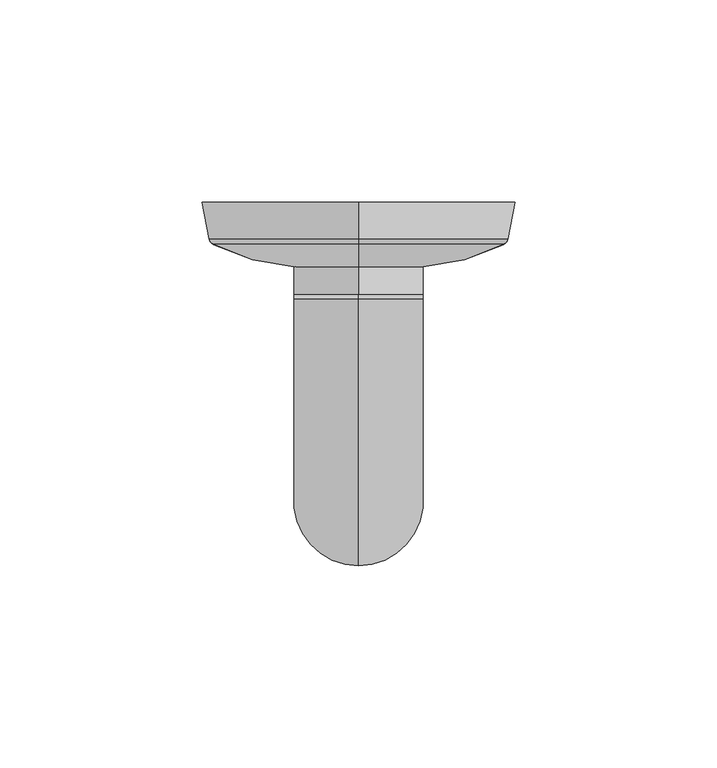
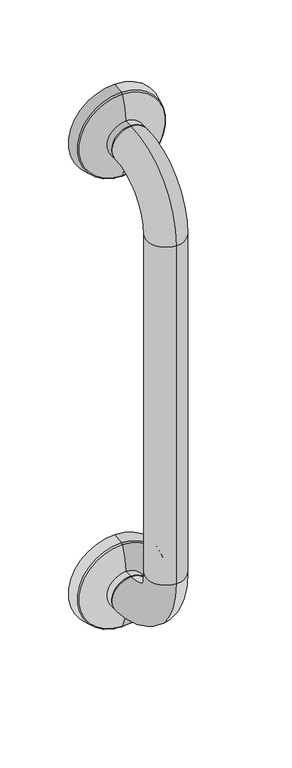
"""IFC4 building model written with IfcOpenShell, lengths in millimetres: proxy geometry, Grab Rail_Metlam_Straight_Vertical : 432long x 90d x 32w (ML329SS)."""

from ifc_helpers import new_model, si_unit, point, frame, origin, place, context, project, spatial, polyline, circle_curve, ellipse_curve, trimmed, source, transform, mapped, element, save
from ifc_brep_helpers import plane_surface, cylinder_surface, revolved_surface, advanced_brep


def specialty_equipment_ed02a0b0(model_context):
    return source(origin(), model_context, "Body", "AdvancedBrep", [
        advanced_brep(
        [(0.0, -90.0, 834.0), (0.0, -24.0, 768.0), (0.0, -24.0, 800.0), (0.0, -58.0, 834.0), (0.0, -58.0, 1134.0), (0.0, -90.0, 1134.0), (0.0, -24.0, 1168.0), (0.0, -24.0, 1200.0), (0.0, -23.0, 768.0), (0.0, -23.0, 800.0), (0.0, -23.0, 1168.0), (0.0, -23.0, 1200.0), (0.0, 0.0, 1184.0), (0.0, 0.0, 1145.0), (0.0, 0.0, 1223.0), (0.0, -9.0646354, 1146.8129271), (0.0, -9.0646354, 1221.1870729), (0.0, -10.4521085, 1220.1384075), (0.0, -10.4521085, 1147.8615925), (0.0, -16.0065539, 1168.0), (0.0, -16.0065539, 1200.0), (0.0, -9.0646354, 746.8129271), (0.0, -9.0646354, 821.1870729), (0.0, 0.0, 823.0), (0.0, 0.0, 745.0), (0.0, -16.0065539, 768.0), (0.0, -16.0065539, 800.0), (0.0, -10.4521085, 820.1384075), (0.0, -10.4521085, 747.8615925), (0.0, 0.0, 784.0)],
        [
            (0, 1, circle_curve(frame((0.0, -24.0, 834.0), z_axis=(1.0, 0.0, 0.0), x_axis=(0.0, 0.0, -1.0)), 66.0)),
            (1, 2, circle_curve(frame((0.0, -24.0, 784.0), z_axis=(0.0, -1.0, 0.0), x_axis=(0.0, 0.0, -1.0)), 16.0)),
            (2, 3, circle_curve(frame((0.0, -24.0, 834.0), z_axis=(-1.0, 0.0, 0.0), x_axis=(0.0, 0.0, -1.0)), 34.0)),
            (3, 0, circle_curve(frame((0.0, -74.0, 834.0), z_axis=(0.0, 0.0, -1.0), x_axis=(0.0, -1.0, 0.0)), 16.0)),
            (0, 3, circle_curve(frame((0.0, -74.0, 834.0), z_axis=(0.0, 0.0, -1.0), x_axis=(0.0, -1.0, 0.0)), 16.0)),
            (2, 1, circle_curve(frame((0.0, -24.0, 784.0), z_axis=(0.0, -1.0, 0.0), x_axis=(0.0, 0.0, -1.0)), 16.0)),
            (3, 4),
            (4, 5, circle_curve(frame((0.0, -74.0, 1134.0), z_axis=(0.0, 0.0, -1.0), x_axis=(0.0, -1.0, 0.0)), 16.0)),
            (5, 0),
            (5, 4, circle_curve(frame((0.0, -74.0, 1134.0), z_axis=(0.0, 0.0, -1.0), x_axis=(0.0, -1.0, 0.0)), 16.0)),
            (4, 6, circle_curve(frame((0.0, -24.0, 1134.0), z_axis=(-1.0, 0.0, 0.0), x_axis=(0.0, -1.0, 0.0)), 34.0)),
            (6, 7, circle_curve(frame((0.0, -24.0, 1184.0), z_axis=(0.0, -1.0, 0.0), x_axis=(0.0, 0.0, 1.0)), 16.0)),
            (7, 5, circle_curve(frame((0.0, -24.0, 1134.0), z_axis=(1.0, 0.0, 0.0), x_axis=(0.0, -1.0, 0.0)), 66.0)),
            (7, 6, circle_curve(frame((0.0, -24.0, 1184.0), z_axis=(0.0, -1.0, 0.0), x_axis=(0.0, 0.0, 1.0)), 16.0)),
            (1, 8),
            (8, 9, circle_curve(frame((0.0, -23.0, 784.0), z_axis=(0.0, -1.0, 0.0), x_axis=(0.0, 0.0, -1.0)), 16.0)),
            (9, 2),
            (9, 8, circle_curve(frame((0.0, -23.0, 784.0), z_axis=(0.0, -1.0, 0.0), x_axis=(0.0, 0.0, -1.0)), 16.0)),
            (6, 10),
            (10, 11, circle_curve(frame((0.0, -23.0, 1184.0), z_axis=(0.0, -1.0, 0.0), x_axis=(0.0, 0.0, 1.0)), 16.0)),
            (11, 7),
            (11, 10, circle_curve(frame((0.0, -23.0, 1184.0), z_axis=(0.0, -1.0, 0.0), x_axis=(0.0, 0.0, 1.0)), 16.0)),
            (12, 13),
            (13, 14, circle_curve(frame((0.0, 0.0, 1184.0), z_axis=(0.0, 1.0, 0.0), x_axis=(0.0, 0.0, -1.0)), 39.0)),
            (14, 12),
            (14, 13, circle_curve(frame((0.0, 0.0, 1184.0), z_axis=(0.0, 1.0, 0.0), x_axis=(0.0, 0.0, -1.0)), 39.0)),
            (13, 15),
            (15, 16, circle_curve(frame((0.0, -9.0646354, 1184.0), z_axis=(0.0, 1.0, 0.0), x_axis=(0.0, 0.0, -1.0)), 37.1870729)),
            (16, 14),
            (16, 15, circle_curve(frame((0.0, -9.0646354, 1184.0), z_axis=(0.0, 1.0, 0.0), x_axis=(0.0, 0.0, -1.0)), 37.1870729)),
            (17, 18, circle_curve(frame((0.0, -10.4521085, 1184.0), z_axis=(0.0, -1.0, 0.0), x_axis=(0.0, 0.0, -1.0)), 36.1384075)),
            (18, 19, circle_curve(frame((0.0, 35.2834961, 1171.3112908), z_axis=(-1.0, 0.0, 0.0), x_axis=(0.0, 1.0, 0.0)), 51.3968275)),
            (19, 20, circle_curve(frame((0.0, -16.0065539, 1184.0), z_axis=(0.0, 1.0, 0.0), x_axis=(0.0, 0.0, -1.0)), 16.0)),
            (20, 17, circle_curve(frame((0.0, 35.2834961, 1196.6887092), z_axis=(-1.0, 0.0, 0.0), x_axis=(0.0, 1.0, 0.0)), 51.3968275)),
            (18, 17, circle_curve(frame((0.0, -10.4521085, 1184.0), z_axis=(0.0, -1.0, 0.0), x_axis=(0.0, 0.0, -1.0)), 36.1384075)),
            (20, 19, circle_curve(frame((0.0, -16.0065539, 1184.0), z_axis=(0.0, 1.0, 0.0), x_axis=(0.0, 0.0, -1.0)), 16.0)),
            (19, 10),
            (11, 20),
            (15, 18, circle_curve(frame((0.0, -8.6724031, 1148.7740884), z_axis=(-1.0, 0.0, 0.0), x_axis=(0.0, 1.0, 0.0)), 2.0)),
            (17, 16, circle_curve(frame((0.0, -8.6724031, 1219.2259116), z_axis=(-1.0, 0.0, 0.0), x_axis=(0.0, 1.0, 0.0)), 2.0)),
            (21, 22, circle_curve(frame((0.0, -9.0646354, 784.0), z_axis=(0.0, 1.0, 0.0), x_axis=(0.0, 0.0, 1.0)), 37.1870729)),
            (22, 23),
            (23, 24, circle_curve(frame((0.0, 0.0, 784.0), z_axis=(0.0, -1.0, 0.0), x_axis=(0.0, 0.0, 1.0)), 39.0)),
            (24, 21),
            (22, 21, circle_curve(frame((0.0, -9.0646354, 784.0), z_axis=(0.0, 1.0, 0.0), x_axis=(0.0, 0.0, 1.0)), 37.1870729)),
            (24, 23, circle_curve(frame((0.0, 0.0, 784.0), z_axis=(0.0, -1.0, 0.0), x_axis=(0.0, 0.0, 1.0)), 39.0)),
            (25, 26, circle_curve(frame((0.0, -16.0065539, 784.0), z_axis=(0.0, 1.0, 0.0), x_axis=(0.0, 0.0, 1.0)), 16.0)),
            (26, 27, circle_curve(frame((0.0, 35.2834961, 796.6887092), z_axis=(-1.0, 0.0, 0.0), x_axis=(0.0, 1.0, 0.0)), 51.3968275)),
            (27, 28, circle_curve(frame((0.0, -10.4521085, 784.0), z_axis=(0.0, -1.0, 0.0), x_axis=(0.0, 0.0, 1.0)), 36.1384075)),
            (28, 25, circle_curve(frame((0.0, 35.2834961, 771.3112908), z_axis=(-1.0, 0.0, 0.0), x_axis=(0.0, 1.0, 0.0)), 51.3968275)),
            (26, 25, circle_curve(frame((0.0, -16.0065539, 784.0), z_axis=(0.0, 1.0, 0.0), x_axis=(0.0, 0.0, 1.0)), 16.0)),
            (28, 27, circle_curve(frame((0.0, -10.4521085, 784.0), z_axis=(0.0, -1.0, 0.0), x_axis=(0.0, 0.0, 1.0)), 36.1384075)),
            (25, 8),
            (9, 26),
            (23, 29),
            (29, 24),
            (21, 28, circle_curve(frame((0.0, -8.6724031, 748.7740884), z_axis=(-1.0, 0.0, 0.0), x_axis=(0.0, 1.0, 0.0)), 2.0)),
            (27, 22, circle_curve(frame((0.0, -8.6724031, 819.2259116), z_axis=(-1.0, 0.0, 0.0), x_axis=(0.0, 1.0, 0.0)), 2.0)),
        ],
        [
            revolved_surface(trimmed(ellipse_curve(frame((0.0, -24.0, 784.0), z_axis=(0.0, 1.0, 0.0), x_axis=(0.0, 0.0, -1.0)), 16.0, 16.0), [point((0.0, -24.0, 800.0))], [point((0.0, -24.0, 768.0))], True, "CARTESIAN"), (0.0, -24.0, 834.0), (-1.0, 0.0, 0.0)),
            revolved_surface(trimmed(ellipse_curve(frame((0.0, -24.0, 784.0), z_axis=(0.0, 1.0, 0.0), x_axis=(0.0, 0.0, -1.0)), 16.0, 16.0), [point((0.0, -24.0, 768.0))], [point((0.0, -24.0, 800.0))], True, "CARTESIAN"), (0.0, -24.0, 834.0), (-1.0, 0.0, 0.0)),
            cylinder_surface(frame((0.0, -74.0, 834.0), z_axis=(0.0, 0.0, -1.0), x_axis=(0.0, -1.0, 0.0)), 16.0),
            revolved_surface(trimmed(ellipse_curve(frame((0.0, -74.0, 1134.0), z_axis=(0.0, 0.0, -1.0), x_axis=(0.0, -1.0, 0.0)), 16.0, 16.0), [point((0.0, -58.0, 1134.0))], [point((0.0, -90.0, 1134.0))], True, "CARTESIAN"), (0.0, -24.0, 1134.0), (-1.0, 0.0, 0.0)),
            revolved_surface(trimmed(ellipse_curve(frame((0.0, -74.0, 1134.0), z_axis=(0.0, 0.0, -1.0), x_axis=(0.0, -1.0, 0.0)), 16.0, 16.0), [point((0.0, -90.0, 1134.0))], [point((0.0, -58.0, 1134.0))], True, "CARTESIAN"), (0.0, -24.0, 1134.0), (-1.0, 0.0, 0.0)),
            cylinder_surface(frame((0.0, -23.0, 784.0), z_axis=(0.0, 1.0, 0.0), x_axis=(0.0, 0.0, -1.0)), 16.0),
            cylinder_surface(frame((0.0, -24.0, 1184.0), z_axis=(0.0, -1.0, 0.0), x_axis=(0.0, 0.0, 1.0)), 16.0),
            plane_surface(frame((0.0, 0.0, 1184.0), z_axis=(0.0, 1.0, 0.0), x_axis=(0.0, 0.0, -1.0))),
            revolved_surface(polyline([(0.0, -9.0646354, 1146.8129271), (0.0, 0.0, 1145.0)]), (0.0, -10.0, 1184.0), (0.0, 1.0, 0.0)),
            revolved_surface(trimmed(ellipse_curve(frame((0.0, 35.2834961, 1171.3112908), z_axis=(1.0, 0.0, 0.0), x_axis=(0.0, 1.0, 0.0)), 51.3968275, 51.3968275), [point((0.0, -16.0065539, 1168.0))], [point((0.0, -10.4521085, 1147.8615925))], True, "CARTESIAN"), (0.0, -10.0, 1184.0), (0.0, 1.0, 0.0)),
            cylinder_surface(frame((0.0, -10.0, 1184.0), z_axis=(0.0, 1.0, 0.0), x_axis=(0.0, 0.0, -1.0)), 16.0),
            revolved_surface(trimmed(ellipse_curve(frame((0.0, -8.6724031, 1148.7740884), z_axis=(1.0, 0.0, 0.0), x_axis=(0.0, 1.0, 0.0)), 2.0, 2.0), [point((0.0, -10.4521085, 1147.8615925))], [point((0.0, -9.0646354, 1146.8129271))], True, "CARTESIAN"), (0.0, -10.0, 1184.0), (0.0, 1.0, 0.0)),
            revolved_surface(polyline([(0.0, 0.0, 823.0), (0.0, -9.0646354, 821.1870729)]), (0.0, -10.0, 784.0), (0.0, -1.0, 0.0)),
            revolved_surface(trimmed(ellipse_curve(frame((0.0, 35.2834961, 796.6887092), z_axis=(1.0, 0.0, 0.0), x_axis=(0.0, 1.0, 0.0)), 51.3968275, 51.3968275), [point((0.0, -10.4521085, 820.1384075))], [point((0.0, -16.0065539, 800.0))], True, "CARTESIAN"), (0.0, -10.0, 784.0), (0.0, -1.0, 0.0)),
            cylinder_surface(frame((0.0, -10.0, 784.0), z_axis=(0.0, -1.0, 0.0), x_axis=(0.0, 0.0, 1.0)), 16.0),
            plane_surface(frame((0.0, 0.0, 784.0), z_axis=(0.0, 1.0, 0.0), x_axis=(0.0, 0.0, 1.0))),
            revolved_surface(trimmed(ellipse_curve(frame((0.0, -8.6724031, 819.2259116), z_axis=(1.0, 0.0, 0.0), x_axis=(0.0, 1.0, 0.0)), 2.0, 2.0), [point((0.0, -9.0646354, 821.1870729))], [point((0.0, -10.4521085, 820.1384075))], True, "CARTESIAN"), (0.0, -10.0, 784.0), (0.0, -1.0, 0.0)),
        ],
        [
            (0, [[1, 2, 3, 4]]),
            (1, [[-1, 5, -3, 6]]),
            (2, [[-4, 7, 8, 9]]),
            (2, [[-5, -9, 10, -7]]),
            (3, [[-8, 11, 12, 13]]),
            (4, [[-10, -13, 14, -11]]),
            (5, [[-2, 15, 16, 17]]),
            (5, [[-6, -17, 18, -15]]),
            (6, [[-12, 19, 20, 21]]),
            (6, [[-14, -21, 22, -19]]),
            (7, [[23, 24, 25]]),
            (7, [[-23, -25, 26]]),
            (8, [[-24, 27, 28, 29]]),
            (8, [[-26, -29, 30, -27]]),
            (9, [[31, 32, 33, 34]]),
            (9, [[-32, 35, -34, 36]]),
            (10, [[-33, 37, -22, 38]]),
            (10, [[-36, -38, -20, -37]]),
            (11, [[-28, 39, -31, 40]]),
            (11, [[-30, -40, -35, -39]]),
            (12, [[41, 42, 43, 44]]),
            (12, [[-42, 45, -44, 46]]),
            (13, [[47, 48, 49, 50]]),
            (13, [[-48, 51, -50, 52]]),
            (14, [[-47, 53, -18, 54]]),
            (14, [[-51, -54, -16, -53]]),
            (15, [[-43, 55, 56]]),
            (15, [[-46, -56, -55]]),
            (16, [[-41, 57, -49, 58]]),
            (16, [[-45, -58, -52, -57]]),
        ],
    ),
    ])


if __name__ == "__main__":
    model = new_model("IFC4")
    model_context = context("Model", 3, world=origin())
    ifc_project = project(units=[si_unit("LENGTHUNIT", "METRE", prefix="MILLI")], contexts=[model_context])
    site = spatial("IfcSite", under=ifc_project)
    building = spatial("IfcBuilding", under=site)
    placement = place(None, origin())
    specialty_equipment_shape = specialty_equipment_ed02a0b0(model_context)
    element("IfcBuildingElementProxy", 1, Name="Grab Rail_Metlam_Straight_Vertical : 432long x 90d x 32w (ML329SS)", ObjectType="Grab Rail_Metlam_Straight_Vertical : 432long x 90d x 32w (ML329SS)", at=placement, inside=building, context=model_context, shape_type="MappedRepresentation", body=[
        mapped(specialty_equipment_shape, transform((0.0, 0.0, 0.0), x_axis=(1.0, 0.0, 0.0), y_axis=(0.0, 1.0, 0.0), z_axis=(0.0, 0.0, 1.0))),
    ])
    save(model, "model.ifc")
